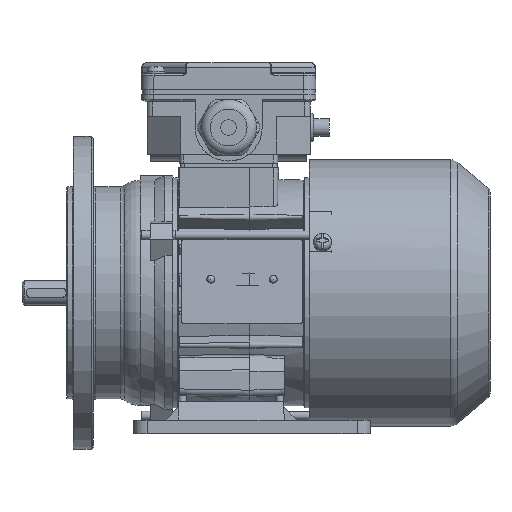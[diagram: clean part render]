
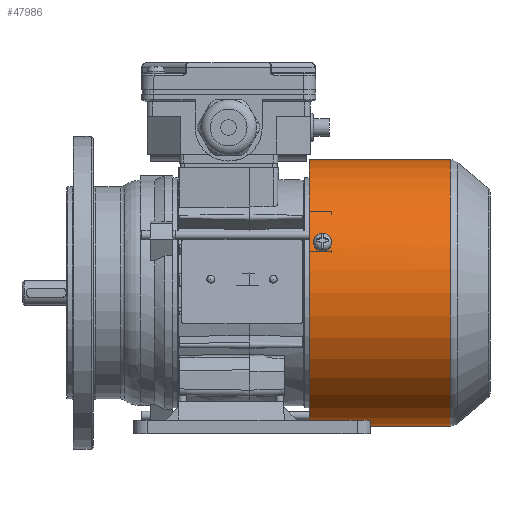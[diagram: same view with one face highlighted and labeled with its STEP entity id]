
A CAD part, front view. The second image highlights one B-rep face of the part: STEP entity #47986.
In plain terms, the highlighted cylindrical face has radius 59.6 mm (diameter 119.2 mm), a full revolution.
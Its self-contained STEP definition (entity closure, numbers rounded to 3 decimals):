
#699=B_SPLINE_CURVE_WITH_KNOTS('',3,(#63989,#63990,#63991,#63992,#63993,
#63994,#63995),.UNSPECIFIED.,.F.,.F.,(4,1,1,1,4),(0.,
0.002,0.004,0.006,0.007),
 .UNSPECIFIED.);
#700=B_SPLINE_CURVE_WITH_KNOTS('',3,(#64001,#64002,#64003,#64004,#64005,
#64006,#64007),.UNSPECIFIED.,.F.,.F.,(4,1,1,1,4),(0.,
0.002,0.004,0.006,0.007),
 .UNSPECIFIED.);
#701=B_SPLINE_CURVE_WITH_KNOTS('',3,(#64040,#64041,#64042,#64043,#64044,
#64045,#64046),.UNSPECIFIED.,.F.,.F.,(4,1,1,1,4),(0.,0.002,
0.004,0.006,0.008),
 .UNSPECIFIED.);
#702=B_SPLINE_CURVE_WITH_KNOTS('',3,(#64050,#64051,#64052,#64053,#64054,
#64055,#64056),.UNSPECIFIED.,.F.,.F.,(4,1,1,1,4),(0.,
0.002,0.004,0.006,0.008),
 .UNSPECIFIED.);
#703=B_SPLINE_CURVE_WITH_KNOTS('',3,(#64060,#64061,#64062,#64063,#64064,
#64065,#64066),.UNSPECIFIED.,.F.,.F.,(4,1,1,1,4),(0.,0.002,
0.004,0.006,0.008),
 .UNSPECIFIED.);
#704=B_SPLINE_CURVE_WITH_KNOTS('',3,(#64070,#64071,#64072,#64073,#64074,
#64075,#64076),.UNSPECIFIED.,.F.,.F.,(4,1,1,1,4),(0.,0.002,
0.004,0.006,0.008),
 .UNSPECIFIED.);
#1503=CYLINDRICAL_SURFACE('',#50025,59.6);
#7936=ORIENTED_EDGE('',*,*,#18265,.T.);
#7937=ORIENTED_EDGE('',*,*,#18266,.T.);
#7938=ORIENTED_EDGE('',*,*,#18267,.T.);
#7939=ORIENTED_EDGE('',*,*,#18268,.T.);
#7940=ORIENTED_EDGE('',*,*,#18248,.F.);
#7941=ORIENTED_EDGE('',*,*,#18251,.F.);
#7942=ORIENTED_EDGE('',*,*,#18269,.T.);
#7943=ORIENTED_EDGE('',*,*,#18270,.T.);
#7944=ORIENTED_EDGE('',*,*,#18271,.T.);
#7945=ORIENTED_EDGE('',*,*,#18272,.T.);
#7946=ORIENTED_EDGE('',*,*,#18273,.F.);
#7947=ORIENTED_EDGE('',*,*,#18274,.T.);
#18248=EDGE_CURVE('',#23447,#23448,#699,.T.);
#18251=EDGE_CURVE('',#23448,#23447,#700,.T.);
#18265=EDGE_CURVE('',#23463,#23464,#26880,.F.);
#18266=EDGE_CURVE('',#23464,#23465,#701,.T.);
#18267=EDGE_CURVE('',#23465,#23466,#26881,.F.);
#18268=EDGE_CURVE('',#23466,#23463,#702,.T.);
#18269=EDGE_CURVE('',#23467,#23468,#26882,.F.);
#18270=EDGE_CURVE('',#23468,#23469,#703,.T.);
#18271=EDGE_CURVE('',#23469,#23470,#26883,.F.);
#18272=EDGE_CURVE('',#23470,#23467,#704,.T.);
#18273=EDGE_CURVE('',#23471,#23471,#26884,.T.);
#18274=EDGE_CURVE('',#23472,#23472,#26885,.F.);
#23447=VERTEX_POINT('',#63987);
#23448=VERTEX_POINT('',#63988);
#23463=VERTEX_POINT('',#64038);
#23464=VERTEX_POINT('',#64039);
#23465=VERTEX_POINT('',#64047);
#23466=VERTEX_POINT('',#64049);
#23467=VERTEX_POINT('',#64058);
#23468=VERTEX_POINT('',#64059);
#23469=VERTEX_POINT('',#64067);
#23470=VERTEX_POINT('',#64069);
#23471=VERTEX_POINT('',#64078);
#23472=VERTEX_POINT('',#64080);
#26880=CIRCLE('',#50026,59.6);
#26881=CIRCLE('',#50027,59.6);
#26882=CIRCLE('',#50028,59.6);
#26883=CIRCLE('',#50029,59.6);
#26884=CIRCLE('',#50030,59.6);
#26885=CIRCLE('',#50031,59.6);
#28344=EDGE_LOOP('',(#7936,#7937,#7938,#7939));
#28345=EDGE_LOOP('',(#7940,#7941));
#28346=EDGE_LOOP('',(#7942,#7943,#7944,#7945));
#28347=EDGE_LOOP('',(#7946));
#28348=EDGE_LOOP('',(#7947));
#30728=FACE_BOUND('',#28344,.T.);
#30729=FACE_BOUND('',#28345,.T.);
#30730=FACE_BOUND('',#28346,.T.);
#30731=FACE_BOUND('',#28347,.T.);
#30732=FACE_BOUND('',#28348,.T.);
#47986=ADVANCED_FACE('',(#30728,#30729,#30730,#30731,#30732),#1503,.T.);
#50025=AXIS2_PLACEMENT_3D('',#64036,#53889,#53890);
#50026=AXIS2_PLACEMENT_3D('',#64037,#53891,#53892);
#50027=AXIS2_PLACEMENT_3D('',#64048,#53893,#53894);
#50028=AXIS2_PLACEMENT_3D('',#64057,#53895,#53896);
#50029=AXIS2_PLACEMENT_3D('',#64068,#53897,#53898);
#50030=AXIS2_PLACEMENT_3D('',#64077,#53899,#53900);
#50031=AXIS2_PLACEMENT_3D('',#64079,#53901,#53902);
#53889=DIRECTION('',(-1.,0.,0.));
#53890=DIRECTION('',(0.,0.,1.));
#53891=DIRECTION('',(-1.,0.,0.));
#53892=DIRECTION('',(0.,0.866,-0.5));
#53893=DIRECTION('',(1.,0.,0.));
#53894=DIRECTION('',(0.,-0.866,0.5));
#53895=DIRECTION('',(-1.,0.,0.));
#53896=DIRECTION('',(0.,0.,1.));
#53897=DIRECTION('',(1.,0.,0.));
#53898=DIRECTION('',(0.,0.,-1.));
#53899=DIRECTION('',(-1.,0.,0.));
#53900=DIRECTION('',(0.,0.,1.));
#53901=DIRECTION('',(1.,0.,0.));
#53902=DIRECTION('',(0.,0.,-1.));
#63987=CARTESIAN_POINT('',(35.,8.295,-59.02));
#63988=CARTESIAN_POINT('',(30.,8.295,-59.02));
#63989=CARTESIAN_POINT('',(35.,8.295,-59.02));
#63990=CARTESIAN_POINT('',(34.937,7.681,-59.106));
#63991=CARTESIAN_POINT('',(34.356,6.499,-59.249));
#63992=CARTESIAN_POINT('',(32.502,5.777,-59.318));
#63993=CARTESIAN_POINT('',(30.649,6.493,-59.25));
#63994=CARTESIAN_POINT('',(30.063,7.681,-59.106));
#63995=CARTESIAN_POINT('',(30.,8.295,-59.02));
#64001=CARTESIAN_POINT('',(30.,8.295,-59.02));
#64002=CARTESIAN_POINT('',(30.063,8.908,-58.934));
#64003=CARTESIAN_POINT('',(30.644,10.084,-58.746));
#64004=CARTESIAN_POINT('',(32.498,10.797,-58.613));
#64005=CARTESIAN_POINT('',(34.351,10.09,-58.745));
#64006=CARTESIAN_POINT('',(34.937,8.908,-58.934));
#64007=CARTESIAN_POINT('',(35.,8.295,-59.02));
#64036=CARTESIAN_POINT('',(-33.5,0.,0.));
#64037=CARTESIAN_POINT('',(35.,0.,0.));
#64038=CARTESIAN_POINT('',(35.,47.484,36.02));
#64039=CARTESIAN_POINT('',(35.,46.437,37.36));
#64040=CARTESIAN_POINT('',(35.,46.437,37.36));
#64041=CARTESIAN_POINT('',(35.,46.023,37.874));
#64042=CARTESIAN_POINT('',(34.458,45.191,38.867));
#64043=CARTESIAN_POINT('',(32.502,44.648,39.479));
#64044=CARTESIAN_POINT('',(30.542,45.19,38.869));
#64045=CARTESIAN_POINT('',(30.,46.023,37.874));
#64046=CARTESIAN_POINT('',(30.,46.437,37.36));
#64047=CARTESIAN_POINT('',(30.,46.437,37.36));
#64048=CARTESIAN_POINT('',(30.,0.,0.));
#64049=CARTESIAN_POINT('',(30.,47.484,36.02));
#64050=CARTESIAN_POINT('',(30.,47.484,36.02));
#64051=CARTESIAN_POINT('',(30.,47.883,35.493));
#64052=CARTESIAN_POINT('',(30.542,48.645,34.446));
#64053=CARTESIAN_POINT('',(32.498,49.108,33.771));
#64054=CARTESIAN_POINT('',(34.458,48.646,34.444));
#64055=CARTESIAN_POINT('',(35.,47.883,35.493));
#64056=CARTESIAN_POINT('',(35.,47.484,36.02));
#64057=CARTESIAN_POINT('',(35.,0.,0.));
#64058=CARTESIAN_POINT('',(35.,-54.936,23.112));
#64059=CARTESIAN_POINT('',(35.,-55.573,21.536));
#64060=CARTESIAN_POINT('',(35.,-55.573,21.536));
#64061=CARTESIAN_POINT('',(35.,-55.812,20.92));
#64062=CARTESIAN_POINT('',(34.458,-56.255,19.703));
#64063=CARTESIAN_POINT('',(32.502,-56.514,18.927));
#64064=CARTESIAN_POINT('',(30.542,-56.256,19.701));
#64065=CARTESIAN_POINT('',(30.,-55.812,20.92));
#64066=CARTESIAN_POINT('',(30.,-55.573,21.536));
#64067=CARTESIAN_POINT('',(30.,-55.573,21.536));
#64068=CARTESIAN_POINT('',(30.,0.,0.));
#64069=CARTESIAN_POINT('',(30.,-54.936,23.112));
#64070=CARTESIAN_POINT('',(30.,-54.936,23.112));
#64071=CARTESIAN_POINT('',(30.,-54.68,23.721));
#64072=CARTESIAN_POINT('',(30.542,-54.154,24.905));
#64073=CARTESIAN_POINT('',(32.498,-53.8,25.643));
#64074=CARTESIAN_POINT('',(34.458,-54.153,24.907));
#64075=CARTESIAN_POINT('',(35.,-54.68,23.721));
#64076=CARTESIAN_POINT('',(35.,-54.936,23.112));
#64077=CARTESIAN_POINT('',(26.5,0.,0.));
#64078=CARTESIAN_POINT('',(26.5,0.,59.6));
#64079=CARTESIAN_POINT('',(89.809,0.,0.));
#64080=CARTESIAN_POINT('',(89.809,0.,-59.6));
